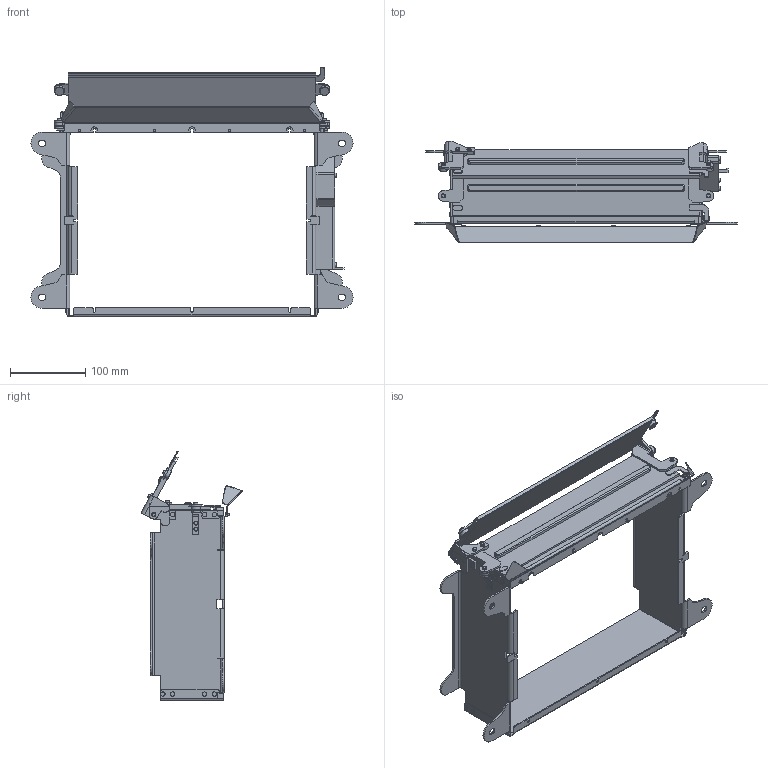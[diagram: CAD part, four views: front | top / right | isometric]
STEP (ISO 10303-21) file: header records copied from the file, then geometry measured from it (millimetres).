
FILE_DESCRIPTION (( 'STEP AP203' ), '1' );
FILE_NAME ('Asyril_PLATFORM FRAME LEFT PURGE H=85mm - 380_000.103.788_(option).STEP', '2020-10-08T13:04:33', ( '' ), ( '' ), 'SwSTEP 2.0', 'SolidWorks 2017', '' );
FILE_SCHEMA (( 'CONFIG_CONTROL_DESIGN' ));
Length unit declared in the file: millimetre
Products named in the file (3): Asyril_PLATFORM FRAME LEFT PURGE H=85mm - 380_000.103.788_OPEN_(option); Asyril_PLATFORM FRAME LEFT PURGE H=85mm - 380_000.103.788_CLOSED_(option); Asyril_PLATFORM FRAME LEFT PURGE H=85mm - 380_000.103.788_(option)
Assembly tree (2 placements, depth 2):
  Asyril_PLATFORM FRAME LEFT PURGE H=85mm - 380_000.103.788_(option)
    Asyril_PLATFORM FRAME LEFT PURGE H=85mm - 380_000.103.788_CLOSED_(option)
    Asyril_PLATFORM FRAME LEFT PURGE H=85mm - 380_000.103.788_OPEN_(option)
Bounding box: 428.99 x 135.28 x 332.36 mm (x, y, z)
Volume: 1041716.1 mm3; surface area: 628601.8 mm2
Topology: 4 solids, 4 shells, 1912 faces, 4837 edges, 3033 vertices
Faces by surface type: plane 957, cylinder 739, cone 116, torus 76, bspline 24
Entity records: 58891 total; most frequent: CARTESIAN_POINT 11327, DIRECTION 10382, ORIENTED_EDGE 9674, EDGE_CURVE 4837, AXIS2_PLACEMENT_3D 3776, VERTEX_POINT 3033, VECTOR 2830, LINE 2830
